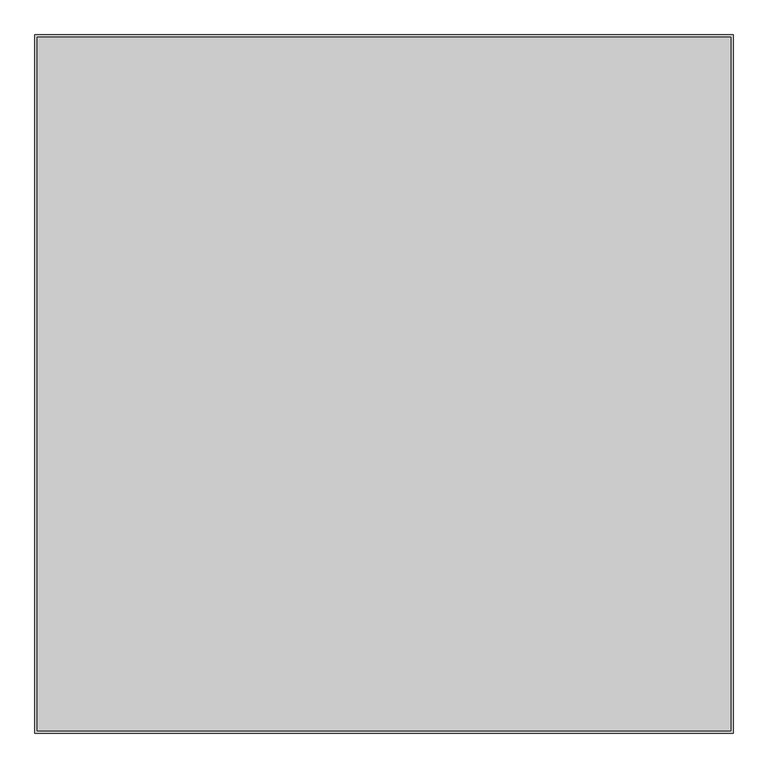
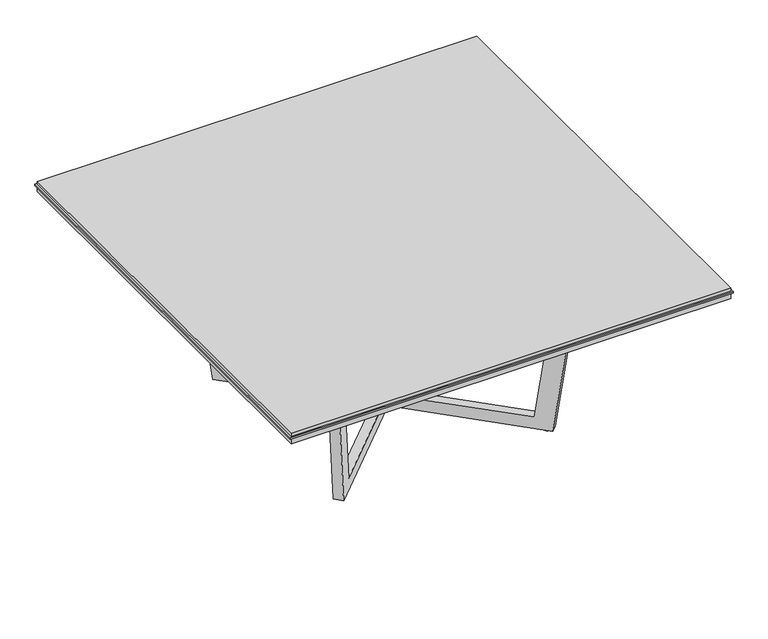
"""IFC4 building model written with IfcOpenShell, lengths in millimetres: furniture geometry, Knoll_Datesweiser_Tables_Meeting_Highline_Square : 72W Corian Open."""

from ifc_helpers import new_model, si_unit, point, frame, frame_2d, origin, origin_with_axes, place, context, project, spatial, polyline, circle_curve, trimmed, segment, composite_curve, outline, extrude, source, transform, mapped, element, save


def furniture_04e91963(model_context):
    return source(origin(), model_context, "Body", "SweptSolid", [
        extrude(outline(polyline([(914.4, 914.4), (914.4, -914.4), (-914.4, -914.4), (-914.4, 914.4), (914.4, 914.4)])), frame((0.0, 0.0, 698.5), z_axis=(0.0, 0.0, 1.0), x_axis=(1.0, 0.0, 0.0)), (0.0, 0.0, 1.0), 25.4),
        extrude(outline(polyline([(914.4, 914.4), (914.4, -914.4), (-914.4, -914.4), (-914.4, 914.4), (914.4, 914.4)])), frame((0.0, 0.0, 730.25), z_axis=(0.0, 0.0, 1.0), x_axis=(1.0, 0.0, 0.0)), (0.0, 0.0, 1.0), 12.7),
        extrude(outline(polyline([(920.75, 920.75), (920.75, -920.75), (-920.75, -920.75), (-920.75, 920.75), (920.75, 920.75)])), frame((0.0, 0.0, 723.9), z_axis=(0.0, 0.0, 1.0), x_axis=(1.0, 0.0, 0.0)), (0.0, 0.0, 1.0), 6.35),
        extrude(outline(composite_curve([segment(trimmed(circle_curve(frame_2d((-430.2420161, -430.2420161)), 12.7), [point((-417.5420161, -430.2420161))], [point((-442.9420161, -430.2420161))], False, "CARTESIAN"), True, "CONTINUOUS"), segment(trimmed(circle_curve(frame_2d((-430.2420161, -430.2420161)), 12.7), [point((-442.9420161, -430.2420161))], [point((-417.5420161, -430.2420161))], False, "CARTESIAN"), True, "CONTINUOUS")], self_intersect=False)), origin_with_axes(), (0.0, 0.0, 1.0), 5.9867797),
        extrude(outline(composite_curve([segment(trimmed(circle_curve(frame_2d((-430.2420161, 430.2420161)), 12.7), [point((-417.5420161, 430.2420161))], [point((-442.9420161, 430.2420161))], False, "CARTESIAN"), True, "CONTINUOUS"), segment(trimmed(circle_curve(frame_2d((-430.2420161, 430.2420161)), 12.7), [point((-442.9420161, 430.2420161))], [point((-417.5420161, 430.2420161))], False, "CARTESIAN"), True, "CONTINUOUS")], self_intersect=False)), origin_with_axes(), (0.0, 0.0, 1.0), 5.9867797),
        extrude(outline(composite_curve([segment(trimmed(circle_curve(frame_2d((430.2420161, -430.2420161)), 12.7), [point((442.9420161, -430.2420161))], [point((417.5420161, -430.2420161))], False, "CARTESIAN"), True, "CONTINUOUS"), segment(trimmed(circle_curve(frame_2d((430.2420161, -430.2420161)), 12.7), [point((417.5420161, -430.2420161))], [point((442.9420161, -430.2420161))], False, "CARTESIAN"), True, "CONTINUOUS")], self_intersect=False)), origin_with_axes(), (0.0, 0.0, 1.0), 5.9867797),
        extrude(outline(composite_curve([segment(trimmed(circle_curve(frame_2d((430.2420161, 430.2420161)), 12.7), [point((442.9420161, 430.2420161))], [point((417.5420161, 430.2420161))], False, "CARTESIAN"), True, "CONTINUOUS"), segment(trimmed(circle_curve(frame_2d((430.2420161, 430.2420161)), 12.7), [point((417.5420161, 430.2420161))], [point((442.9420161, 430.2420161))], False, "CARTESIAN"), True, "CONTINUOUS")], self_intersect=False)), origin_with_axes(), (0.0, 0.0, 1.0), 5.9867797),
        extrude(outline(polyline([(633.7990639, 0.0), (1267.5960015, 1.6418154), (1365.8753618, -691.1402556), (1289.3280631, -691.2394011), (1198.2722297, -49.376762), (633.8639645, -50.1077947), (69.4556995, -50.8388274), (-19.937125, -692.9351873), (-96.4844236, -693.0343328), (0.0, 0.0), (633.7990639, 0.0)])), frame((-461.3328396, 434.6928596, 5.5912411), z_axis=(0.7071067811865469, 0.7071067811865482, 0.0), x_axis=(0.707106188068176, -0.7071061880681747, 0.0012952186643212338)), (0.0, 0.0, 1.0), 37.6746211),
        extrude(outline(polyline([(633.799064, 0.0), (1267.5960015, 1.6418154), (1365.8753618, -691.1402556), (1289.3280632, -691.2394011), (1198.2722297, -49.376762), (633.8639646, -50.1077947), (69.4556995, -50.8388274), (-19.9371249, -692.9351873), (-96.4844235, -693.0343328), (0.0, 0.0), (633.799064, 0.0)])), frame((-434.6928596, -461.6336207, 5.5912411), z_axis=(-0.707106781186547, 0.7071067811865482, 0.0), x_axis=(0.7071061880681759, 0.7071061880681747, 0.0012952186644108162)), (0.0, 0.0, 1.0), 37.6746211),
    ])


if __name__ == "__main__":
    model = new_model("IFC4")
    model_context = context("Model", 3, world=origin())
    ifc_project = project(units=[si_unit("LENGTHUNIT", "METRE", prefix="MILLI")], contexts=[model_context])
    site = spatial("IfcSite", under=ifc_project)
    building = spatial("IfcBuilding", under=site)
    placement = place(None, origin())
    furniture_shape = furniture_04e91963(model_context)
    element("IfcFurniture", 1, ObjectType="Knoll_Datesweiser_Tables_Meeting_Highline_Square : 72W Corian Open", at=placement, inside=building, context=model_context, shape_type="MappedRepresentation", body=[
        mapped(furniture_shape, transform((0.0, 0.0, 0.0), x_axis=(1.0, 0.0, 0.0), y_axis=(0.0, 1.0, 0.0), z_axis=(0.0, 0.0, 1.0))),
    ])
    save(model, "model.ifc")
